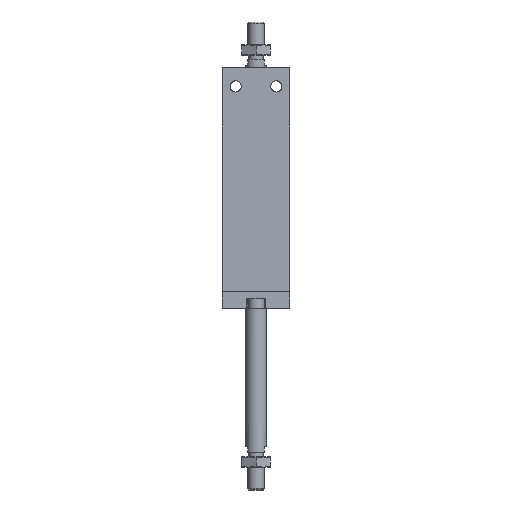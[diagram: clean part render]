
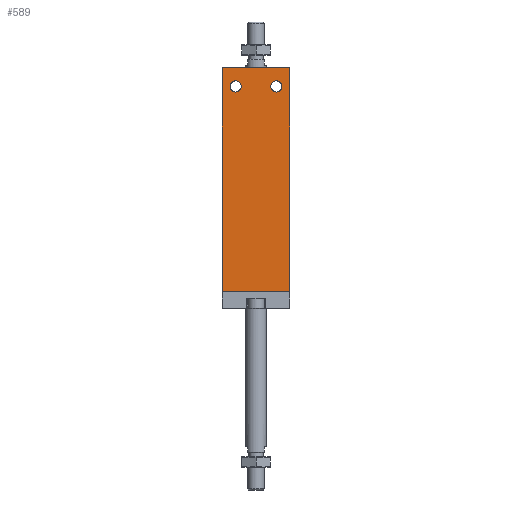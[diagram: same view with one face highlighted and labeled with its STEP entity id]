
A CAD part, front view. The second image highlights one B-rep face of the part: STEP entity #589.
In plain terms, the highlighted planar face has unit normal (0, -1, 0).
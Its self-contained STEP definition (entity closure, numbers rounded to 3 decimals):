
#589 = ADVANCED_FACE( '', ( #1256, #1257, #1258 ), #1259, .T. );
#1256 = FACE_BOUND( '', #2012, .T. );
#1257 = FACE_BOUND( '', #2013, .T. );
#1258 = FACE_OUTER_BOUND( '', #2014, .T. );
#1259 = PLANE( '', #2015 );
#2012 = EDGE_LOOP( '', ( #3367 ) );
#2013 = EDGE_LOOP( '', ( #3368 ) );
#2014 = EDGE_LOOP( '', ( #3369, #3370, #3371, #3372 ) );
#2015 = AXIS2_PLACEMENT_3D( '', #3373, #3374, #3375 );
#3367 = ORIENTED_EDGE( '', *, *, #4392, .F. );
#3368 = ORIENTED_EDGE( '', *, *, #4674, .F. );
#3369 = ORIENTED_EDGE( '', *, *, #4675, .F. );
#3370 = ORIENTED_EDGE( '', *, *, #4676, .F. );
#3371 = ORIENTED_EDGE( '', *, *, #4677, .T. );
#3372 = ORIENTED_EDGE( '', *, *, #4678, .T. );
#3373 = CARTESIAN_POINT( '', ( -19.8, -31., -132. ) );
#3374 = DIRECTION( '', ( 0., -1., 0. ) );
#3375 = DIRECTION( '', ( 1., 0., 0. ) );
#4392 = EDGE_CURVE( '', #5265, #5265, #5266, .T. );
#4674 = EDGE_CURVE( '', #5675, #5675, #5676, .T. );
#4675 = EDGE_CURVE( '', #5677, #5678, #5679, .T. );
#4676 = EDGE_CURVE( '', #5680, #5677, #5681, .T. );
#4677 = EDGE_CURVE( '', #5680, #5682, #5683, .T. );
#4678 = EDGE_CURVE( '', #5682, #5678, #5684, .T. );
#5265 = VERTEX_POINT( '', #6697 );
#5266 = CIRCLE( '', #6698, 3.3 );
#5675 = VERTEX_POINT( '', #8003 );
#5676 = CIRCLE( '', #8004, 3.3 );
#5677 = VERTEX_POINT( '', #8005 );
#5678 = VERTEX_POINT( '', #8006 );
#5679 = LINE( '', #8007, #8008 );
#5680 = VERTEX_POINT( '', #8009 );
#5681 = LINE( '', #8010, #8011 );
#5682 = VERTEX_POINT( '', #8012 );
#5683 = LINE( '', #8013, #8014 );
#5684 = LINE( '', #8015, #8016 );
#6697 = CARTESIAN_POINT( '', ( -12., -31., -14.3 ) );
#6698 = AXIS2_PLACEMENT_3D( '', #8633, #8634, #8635 );
#8003 = CARTESIAN_POINT( '', ( 12., -31., -14.3 ) );
#8004 = AXIS2_PLACEMENT_3D( '', #8906, #8907, #8908 );
#8005 = CARTESIAN_POINT( '', ( -19.8, -31., 0. ) );
#8006 = CARTESIAN_POINT( '', ( 19.8, -31., 0. ) );
#8007 = CARTESIAN_POINT( '', ( -19.8, -31., 0. ) );
#8008 = VECTOR( '', #8909, 1000. );
#8009 = CARTESIAN_POINT( '', ( -19.8, -31., -132. ) );
#8010 = CARTESIAN_POINT( '', ( -19.8, -31., -132. ) );
#8011 = VECTOR( '', #8910, 1000. );
#8012 = CARTESIAN_POINT( '', ( 19.8, -31., -132. ) );
#8013 = CARTESIAN_POINT( '', ( -19.8, -31., -132. ) );
#8014 = VECTOR( '', #8911, 1000. );
#8015 = CARTESIAN_POINT( '', ( 19.8, -31., -132. ) );
#8016 = VECTOR( '', #8912, 1000. );
#8633 = CARTESIAN_POINT( '', ( -12., -31., -11. ) );
#8634 = DIRECTION( '', ( 0., -1., 0. ) );
#8635 = DIRECTION( '', ( 0., 0., -1. ) );
#8906 = CARTESIAN_POINT( '', ( 12., -31., -11. ) );
#8907 = DIRECTION( '', ( 0., -1., 0. ) );
#8908 = DIRECTION( '', ( 0., 0., -1. ) );
#8909 = DIRECTION( '', ( 1., 0., 0. ) );
#8910 = DIRECTION( '', ( 0., 0., 1. ) );
#8911 = DIRECTION( '', ( 1., 0., 0. ) );
#8912 = DIRECTION( '', ( 0., 0., 1. ) );
